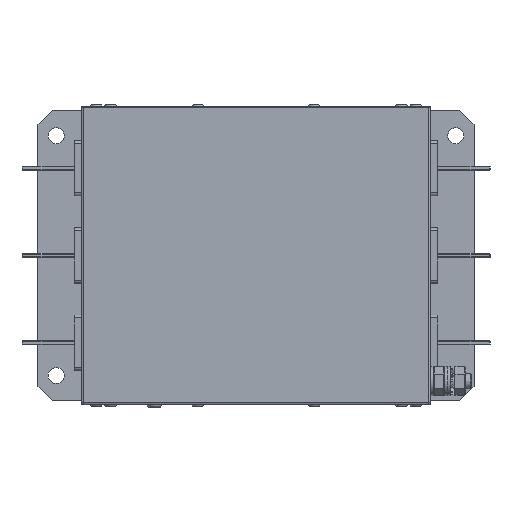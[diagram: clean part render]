
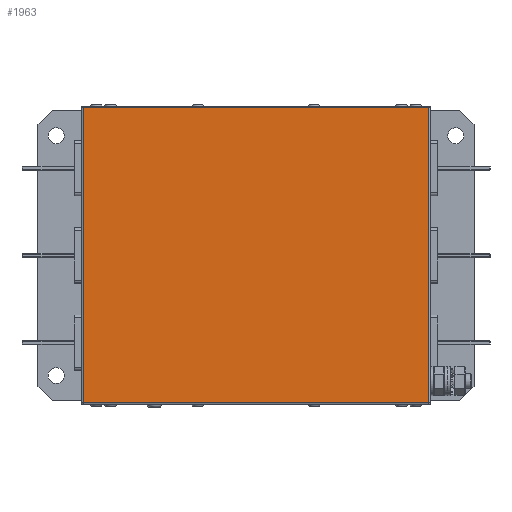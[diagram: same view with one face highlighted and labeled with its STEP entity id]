
A CAD part, top view. The second image highlights one B-rep face of the part: STEP entity #1963.
In plain terms, the highlighted planar face has unit normal (0, 0, 1).
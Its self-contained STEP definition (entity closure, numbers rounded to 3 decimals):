
#1963=ADVANCED_FACE('',(#2431),#2433,.T.);
#2431=FACE_BOUND('',#2432,.T.);
#2432=EDGE_LOOP('',(#3960,#3961,#3962,#3963));
#2433=PLANE('',#2434);
#2434=AXIS2_PLACEMENT_3D('',#2435,#2436,#2437);
#2435=CARTESIAN_POINT('',(0.,0.,100.));
#2436=DIRECTION('',(0.,0.,1.));
#2437=DIRECTION('',(-1.,0.,0.));
#3960=ORIENTED_EDGE('',*,*,#4771,.T.);
#3961=ORIENTED_EDGE('',*,*,#4753,.T.);
#3962=ORIENTED_EDGE('',*,*,#4772,.T.);
#3963=ORIENTED_EDGE('',*,*,#4718,.T.);
#4718=EDGE_CURVE('',#5191,#5189,#5192,.T.);
#4753=EDGE_CURVE('',#5251,#5249,#5252,.T.);
#4771=EDGE_CURVE('',#5189,#5251,#5280,.T.);
#4772=EDGE_CURVE('',#5249,#5191,#5281,.T.);
#5189=VERTEX_POINT('',#6034);
#5191=VERTEX_POINT('',#6039);
#5192=LINE('',#6040,#6041);
#5249=VERTEX_POINT('',#6177);
#5251=VERTEX_POINT('',#6182);
#5252=LINE('',#6183,#6184);
#5280=LINE('',#6255,#6256);
#5281=LINE('',#6258,#6259);
#6034=CARTESIAN_POINT('',(119.,101.5,100.));
#6039=CARTESIAN_POINT('',(119.,-101.5,100.));
#6040=CARTESIAN_POINT('',(119.,-101.5,100.));
#6041=VECTOR('',#6042,1.);
#6042=DIRECTION('',(0.,1.,0.));
#6177=CARTESIAN_POINT('',(-119.,-101.5,100.));
#6182=CARTESIAN_POINT('',(-119.,101.5,100.));
#6183=CARTESIAN_POINT('',(-119.,101.5,100.));
#6184=VECTOR('',#6185,1.);
#6185=DIRECTION('',(0.,-1.,0.));
#6255=CARTESIAN_POINT('',(119.,101.5,100.));
#6256=VECTOR('',#6257,1.);
#6257=DIRECTION('',(-1.,0.,0.));
#6258=CARTESIAN_POINT('',(-119.,-101.5,100.));
#6259=VECTOR('',#6260,1.);
#6260=DIRECTION('',(1.,0.,0.));
